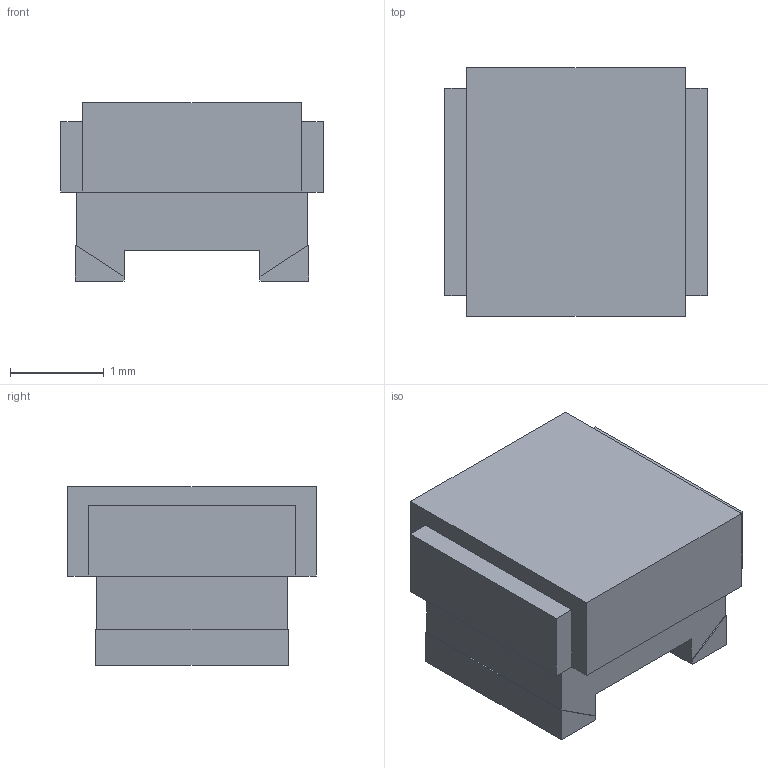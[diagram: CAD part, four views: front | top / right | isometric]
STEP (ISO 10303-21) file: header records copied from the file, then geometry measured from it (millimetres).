
FILE_DESCRIPTION(('STEP AP203'), '1');
FILE_NAME('KIK 2520 (1008) Îëîâî', '', ('UNSPECIFIED'), ('UNSPECIFIED'), 'ASCON STEP Converter 1.6', 'ASCON Math Kernel', '');
FILE_SCHEMA(('CONFIG_CONTROL_DESIGN'));
Length unit declared in the file: millimetre
Assembly tree (1 placements, depth 2):
  (unnamed)
    (unnamed)
Bounding box: 2.8 x 2.65 x 1.9 mm (x, y, z)
Volume: 10.5 mm3; surface area: 33.7 mm2
Topology: 1 solids, 1 shells, 35 faces, 92 edges, 60 vertices
Faces by surface type: plane 35
Entity records: 1428 total; most frequent: CARTESIAN_POINT 189, ORIENTED_EDGE 184, DIRECTION 166, EDGE_CURVE 92, LINE 92, VECTOR 92, VERTEX_POINT 60, AXIS2_PLACEMENT_3D 37
